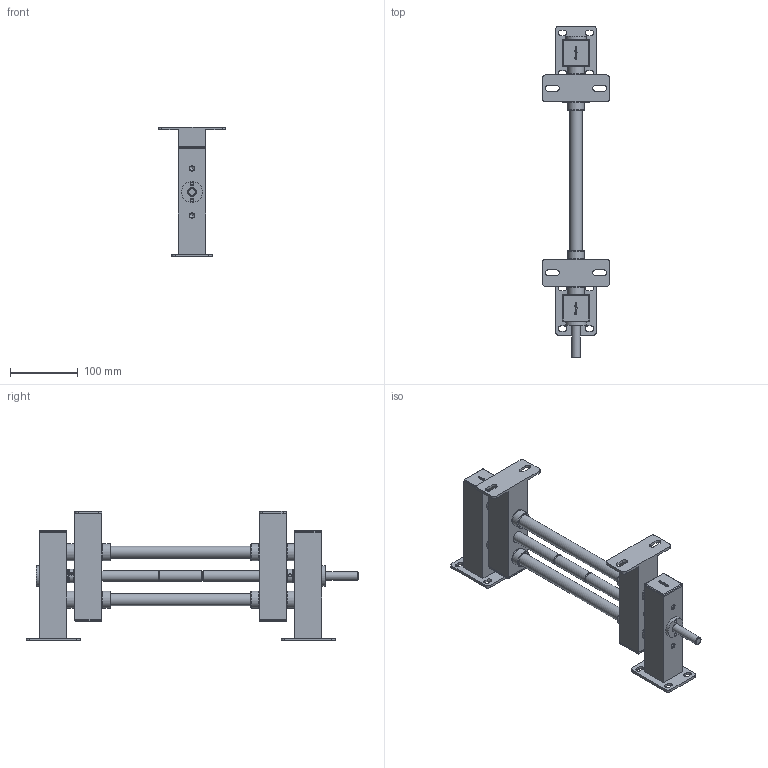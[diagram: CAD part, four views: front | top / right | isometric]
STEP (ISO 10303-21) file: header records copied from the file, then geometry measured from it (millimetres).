
FILE_DESCRIPTION((''),'2;1');
FILE_NAME('C:\Vault Klient\Projekt\Step\100-1400_0-150mm.stp','2009-12-11T13:02:25',('Mathias'),(''),'Autodesk Inventor 2010','Autodesk Inventor 2010','');
FILE_SCHEMA(('CONFIG_CONTROL_DESIGN'));
Length unit declared in the file: millimetre
Products named in the file (1): 100-1400_0-150mm
Bounding box: 100 x 491.5 x 192 mm (x, y, z)
Volume: 620301.4 mm3; surface area: 339607.9 mm2
Topology: 1 solids, 1 shells, 913 faces, 2286 edges, 1491 vertices
Faces by surface type: plane 470, bspline 258, cylinder 143, cone 26, sphere 16
Full cylindrical faces by diameter (mm): 5.1 x16, 12 x4, 12.3 x2, 16 x3, 18 x10, 19 x4, 20 x10, 23.9 x8, 25 x12, 31 x2
Entity records: 29230 total; most frequent: CARTESIAN_POINT 8774, ORIENTED_EDGE 4226, DIRECTION 3318, EDGE_CURVE 2113, VERTEX_POINT 1457, VECTOR 1280, LINE 1280, EDGE_LOOP 1232
